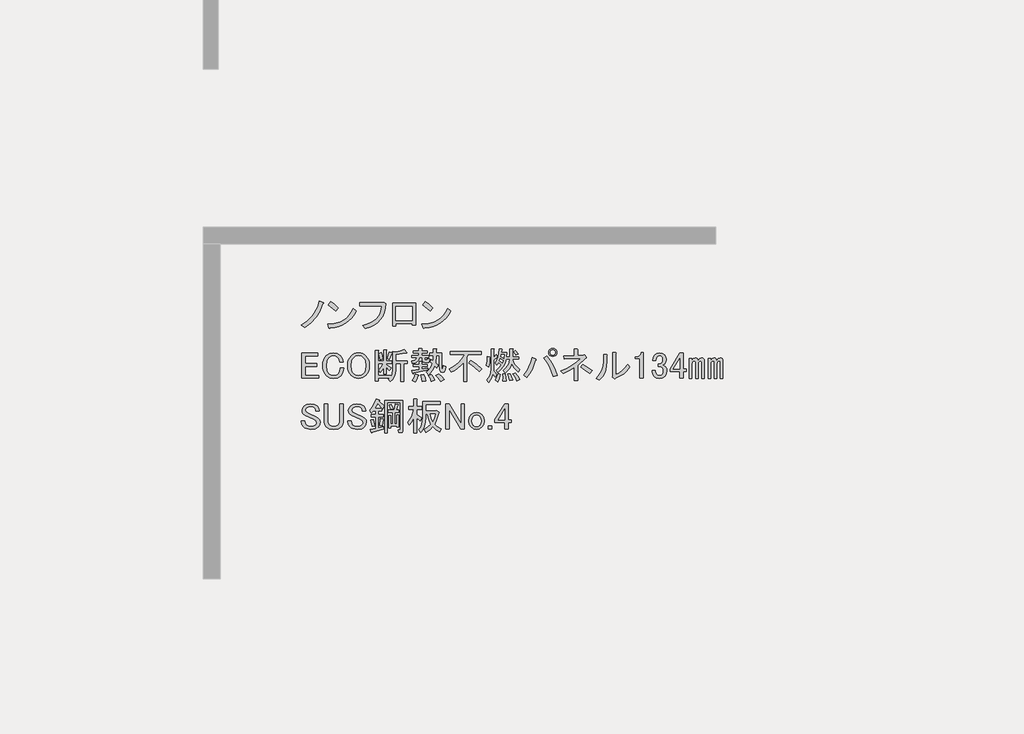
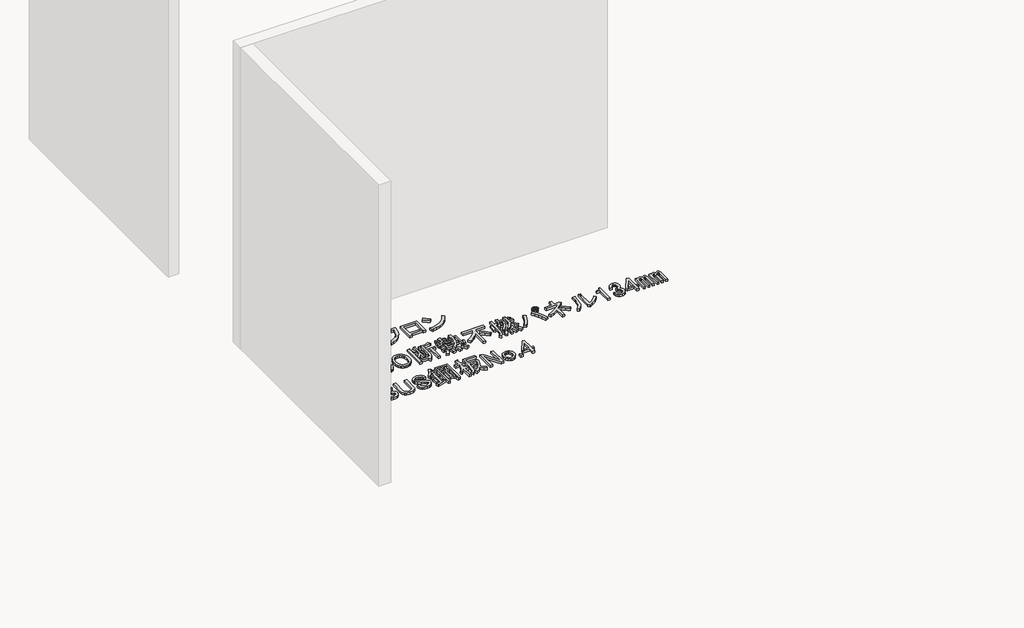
# One storey, part 60 of 117: 1 proxy.
"""IFC4 building model written with IfcOpenShell, lengths in millimetres."""

from ifc_helpers import new_model, si_unit, frame, origin, place, context, project, spatial, polyline, outline, extrude, element, save

model = new_model("IFC4")

# Units and contexts
model_context = context("Model", 3, world=origin())
ifc_project = project(units=[si_unit("LENGTHUNIT", "METRE", prefix="MILLI")], contexts=[model_context])

# Site, building, storey
site = spatial("IfcSite", under=ifc_project)
building = spatial("IfcBuilding", under=site)
storey = spatial("IfcBuildingStorey", under=building, Name="レベル 1", Elevation=500.0)

# Proxy
placement = place(None, origin())
element("IfcBuildingElementProxy", 1, Name="200㎜\u3000MS Pゴシック", ObjectType="200㎜\u3000MS Pゴシック", at=placement, inside=storey, context=model_context, shape_type="SweptSolid", body=[
    extrude(outline(polyline([(48940.1706985, -12603.5496882), (48914.5952502, -12663.3215225), (48886.146156, -12709.2998566), (48844.4782907, -12754.7034615), (48795.3389462, -12792.060858), (48767.7519457, -12770.2211493), (48815.4544673, -12739.7605029), (48855.1107805, -12701.2536481), (48872.4963381, -12677.3305462), (48887.8703435, -12649.2406577), (48901.2327969, -12616.9839827), (48912.5836981, -12580.5605212), (48943.6190736, -12594.3540214), (48946.7800841, -12598.9518548), (48940.1706985, -12603.5496882)])), frame((0.0, 0.0, 500.0), z_axis=(0.0, 0.0, 1.0), x_axis=(1.0, 0.0, 0.0)), (0.0, 0.0, 1.0), 25.0),
    extrude(outline(polyline([(49039.8977052, -12658.7236891), (48981.2753292, -12611.5958967), (49000.8161212, -12587.4572713), (49028.1157571, -12607.2854279), (49061.7374138, -12636.8839804), (49039.8977052, -12658.7236891)])), frame((0.0, 0.0, 500.0), z_axis=(0.0, 0.0, 1.0), x_axis=(1.0, 0.0, 0.0)), (0.0, 0.0, 1.0), 25.0),
    extrude(outline(polyline([(49201.9713328, -12658.7236891), (49185.447869, -12688.465924), (49166.3381239, -12714.4724192), (49144.6420975, -12736.7431748), (49120.3597898, -12755.2781907), (49093.4912008, -12770.077467), (49064.0363306, -12781.1410036), (49031.995179, -12788.4688006), (48997.3677461, -12792.060858), (48991.6204544, -12800.1070664), (48985.8731626, -12794.3597747), (48976.6774958, -12764.4738575), (49012.5082679, -12761.7977748), (49045.2857912, -12755.4937141), (49075.0100658, -12745.5616756), (49101.6810916, -12732.0016591), (49125.2988687, -12714.8136646), (49145.863397, -12693.9976923), (49163.3746766, -12669.553742), (49177.8327074, -12641.4818138), (49201.9713328, -12658.7236891)])), frame((0.0, 0.0, 500.0), z_axis=(0.0, 0.0, 1.0), x_axis=(1.0, 0.0, 0.0)), (0.0, 0.0, 1.0), 25.0),
    extrude(outline(polyline([(49252.7314136, -12773.6695243), (49286.514713, -12763.9889298), (49316.0234641, -12751.6142922), (49341.257667, -12736.5456116), (49362.2173217, -12718.782888), (49378.902428, -12698.3261214), (49391.3129862, -12675.1753118), (49399.4489961, -12649.3304591), (49403.3104577, -12620.7915635), (49230.8917049, -12620.7915635), (49230.8917049, -12595.5034798), (49405.6093744, -12595.5034798), (49421.7017914, -12592.0551047), (49434.3458332, -12603.5496882), (49430.825617, -12640.0449909), (49422.5638851, -12673.0919185), (49409.5606375, -12702.6904711), (49391.8158742, -12728.8406486), (49369.3295952, -12751.542451), (49342.1018005, -12770.7958784), (49310.1324901, -12786.6009308), (49273.421664, -12798.9576081), (49252.7314136, -12773.6695243)])), frame((0.0, 0.0, 500.0), z_axis=(0.0, 0.0, 1.0), x_axis=(1.0, 0.0, 0.0)), (0.0, 0.0, 1.0), 25.0),
    extrude(outline(polyline([(49667.455987, -12772.520066), (49641.0184449, -12772.520066), (49641.0184449, -12759.8760241), (49513.4285679, -12759.8760241), (49513.4285679, -12778.2673577), (49486.9910258, -12778.2673577), (49486.9910258, -12598.9518548), (49667.455987, -12598.9518548), (49667.455987, -12772.520066)]), holes=[polyline([(49513.4285679, -12624.2399386), (49513.4285679, -12734.5879404), (49641.0184449, -12734.5879404), (49641.0184449, -12624.2399386), (49513.4285679, -12624.2399386)])]), frame((0.0, 0.0, 500.0), z_axis=(0.0, 0.0, 1.0), x_axis=(1.0, 0.0, 0.0)), (0.0, 0.0, 1.0), 25.0),
    extrude(outline(polyline([(49943.5099049, -12658.7236891), (49926.9864411, -12688.465924), (49907.876696, -12714.4724192), (49886.1806696, -12736.7431748), (49861.8983619, -12755.2781907), (49835.0297729, -12770.077467), (49805.5749026, -12781.1410036), (49773.5337511, -12788.4688006), (49738.9063182, -12792.060858), (49733.1590264, -12800.1070664), (49727.4117347, -12794.3597747), (49718.2160679, -12764.4738575), (49754.0468399, -12761.7977748), (49786.8243633, -12755.4937141), (49816.5486378, -12745.5616756), (49843.2196637, -12732.0016591), (49866.8374407, -12714.8136646), (49887.4019691, -12693.9976923), (49904.9132486, -12669.553742), (49919.3712795, -12641.4818138), (49943.5099049, -12658.7236891)])), frame((0.0, 0.0, 500.0), z_axis=(0.0, 0.0, 1.0), x_axis=(1.0, 0.0, 0.0)), (0.0, 0.0, 1.0), 25.0),
    extrude(outline(polyline([(49781.4362772, -12658.7236891), (49722.8139013, -12611.5958967), (49742.3546933, -12587.4572713), (49769.6543291, -12607.2854279), (49803.2759859, -12636.8839804), (49781.4362772, -12658.7236891)])), frame((0.0, 0.0, 500.0), z_axis=(0.0, 0.0, 1.0), x_axis=(1.0, 0.0, 0.0)), (0.0, 0.0, 1.0), 25.0),
    extrude(outline(polyline([(48773.4992375, -12992.0551047), (48899.9396562, -12992.0551047), (48899.9396562, -13013.8948134), (48799.9367796, -13013.8948134), (48799.9367796, -13074.816106), (48893.0429061, -13074.816106), (48893.0429061, -13096.6558147), (48799.9367796, -13096.6558147), (48799.9367796, -13166.7727742), (48905.686948, -13166.7727742), (48905.686948, -13188.6124829), (48773.4992375, -13188.6124829), (48773.4992375, -12992.0551047)])), frame((0.0, 0.0, 500.0), z_axis=(0.0, 0.0, 1.0), x_axis=(1.0, 0.0, 0.0)), (0.0, 0.0, 1.0), 25.0),
    extrude(outline(polyline([(48937.7798252, -13090.908523), (48939.5758538, -13066.985421), (48944.9639399, -13045.7922827), (48953.9440832, -13027.3291079), (48966.516284, -13011.5958967), (48991.5170031, -12995.2161152), (49022.8397432, -12989.756188), (49053.5877541, -12994.641386), (49076.8642858, -13009.29698), (49092.6693381, -13032.8608762), (49098.7039944, -13062.1720642), (49071.116994, -13062.1720642), (49066.231796, -13040.9070847), (49056.1740354, -13025.3893969), (49040.9437123, -13015.0442717), (49022.8397432, -13011.5958967), (49003.2989512, -13015.6190009), (48986.0570759, -13027.6883136), (48977.0050914, -13039.3984206), (48970.5393882, -13053.8384911), (48965.3668256, -13090.908523), (48970.5393882, -13127.9785548), (48977.0050914, -13142.4186254), (48986.0570759, -13154.1287323), (49002.7242221, -13165.3359513), (49022.8397432, -13169.0716909), (49043.242629, -13165.9106804), (49058.4729521, -13156.427649), (49070.5422648, -13136.8868571), (49074.5653691, -13110.449315), (49102.1523695, -13110.449315), (49095.8303486, -13145.2204301), (49088.7899162, -13159.3731361), (49079.1632025, -13171.3706076), (49068.3151893, -13179.9197041), (49055.3119417, -13186.0262016), (49022.8397432, -13190.9113996), (48991.5170031, -13185.4514724), (48966.516284, -13169.0716909), (48953.9440832, -13153.4103209), (48944.9639399, -13135.1626695), (48939.5758538, -13114.3287369), (48937.7798252, -13090.908523)])), frame((0.0, 0.0, 500.0), z_axis=(0.0, 0.0, 1.0), x_axis=(1.0, 0.0, 0.0)), (0.0, 0.0, 1.0), 25.0),
    extrude(outline(polyline([(49133.1417667, -13089.7590646), (49134.8659542, -13066.9135799), (49140.0385168, -13046.6543764), (49148.6594544, -13028.9814543), (49160.7287671, -13013.8948134), (49173.4446501, -13003.3341648), (49187.4536738, -12995.7908443), (49202.7558381, -12991.2648521), (49219.3511431, -12989.756188), (49235.946448, -12991.2648521), (49251.2486123, -12995.7908443), (49265.257636, -13003.3341648), (49277.973519, -13013.8948134), (49290.0428317, -13028.9814543), (49298.6637694, -13046.6543764), (49303.836332, -13066.9135799), (49305.5605195, -13089.7590646), (49303.836332, -13112.6045494), (49298.6637694, -13132.8637528), (49290.0428317, -13150.536675), (49277.973519, -13165.6233159), (49265.257636, -13176.1839645), (49251.2486123, -13183.7272849), (49235.946448, -13188.2532772), (49219.3511431, -13189.7619413), (49202.7558381, -13188.2532772), (49187.4536738, -13183.7272849), (49173.4446501, -13176.1839645), (49160.7287671, -13165.6233159), (49148.6594544, -13150.536675), (49140.0385168, -13132.8637528), (49134.8659542, -13112.6045494), (49133.1417667, -13089.7590646)]), holes=[polyline([(49219.3511431, -13011.5958967), (49198.6608927, -13015.9063655), (49180.2695591, -13028.837772), (49171.7204626, -13039.9731498), (49165.6139651, -13053.8384911), (49160.7287671, -13089.7590646), (49165.6139651, -13125.6796381), (49171.7204626, -13139.5449795), (49180.2695591, -13150.6803573), (49198.6608927, -13163.6117637), (49219.3511431, -13167.9222326), (49240.0413934, -13163.6117637), (49258.432727, -13150.6803573), (49266.9818235, -13139.5449795), (49273.088321, -13125.6796381), (49277.973519, -13089.7590646), (49273.088321, -13053.8384911), (49266.9818235, -13039.9731498), (49258.432727, -13028.837772), (49240.0413934, -13015.9063655), (49219.3511431, -13011.5958967)])]), frame((0.0, 0.0, 500.0), z_axis=(0.0, 0.0, 1.0), x_axis=(1.0, 0.0, 0.0)), (0.0, 0.0, 1.0), 25.0),
    extrude(outline(polyline([(49444.3691101, -13035.7345221), (49461.6109854, -12982.8594379), (49482.3012357, -12988.6067296), (49484.0254232, -12991.7677401), (49480.002319, -12994.3540214), (49462.7604437, -13042.6312722), (49444.3691101, -13035.7345221)])), frame((0.0, 0.0, 500.0), z_axis=(0.0, 0.0, 1.0), x_axis=(1.0, 0.0, 0.0)), (0.0, 0.0, 1.0), 25.0),
    extrude(outline(polyline([(49598.3965292, -12987.4572713), (49596.6723417, -12992.0551047), (49589.2008624, -12989.756188), (49512.1871528, -13002.4002299), (49512.1871528, -13051.826939), (49604.143821, -13051.826939), (49604.143821, -13073.6666477), (49573.1084455, -13073.6666477), (49573.1084455, -13213.9005666), (49550.1192785, -13213.9005666), (49550.1192785, -13073.6666477), (49512.1871528, -13073.6666477), (49512.1871528, -13123.0933568), (49509.6008716, -13150.8958807), (49501.8420277, -13175.6810764), (49488.9106212, -13197.448944), (49470.8066522, -13216.1994833), (49453.5647769, -13196.6586914), (49463.9099021, -13187.4630245), (49374.2521506, -13187.4630245), (49374.2521506, -13209.3027332), (49351.2629836, -13209.3027332), (49351.2629836, -12970.215396), (49373.1026922, -12970.215396), (49377.9878902, -12972.5143127), (49374.2521506, -12977.1121461), (49374.2521506, -13052.9763974), (49416.7821096, -13052.9763974), (49416.7821096, -12965.6175626), (49435.1734433, -12965.6175626), (49440.0586413, -12967.9164793), (49436.3229016, -12972.5143127), (49436.3229016, -13052.9763974), (49480.002319, -13052.9763974), (49480.002319, -13071.367731), (49436.3229016, -13071.367731), (49436.3229016, -13080.5633978), (49476.5539439, -13107.0009399), (49462.7604437, -13128.8406486), (49436.3229016, -13102.4031065), (49436.3229016, -13155.2781907), (49416.7821096, -13155.2781907), (49416.7821096, -13107.0009399), (49403.5633386, -13126.8290965), (49389.1951092, -13142.6341488), (49376.5510673, -13124.2428152), (49398.390776, -13100.1041898), (49415.6326513, -13071.367731), (49374.2521506, -13071.367731), (49374.2521506, -13165.6233159), (49471.9561105, -13165.6233159), (49471.9561105, -13179.4168161), (49484.887517, -13155.2781907), (49489.1979858, -13121.9438985), (49489.1979858, -12977.1121461), (49511.0376945, -12982.8594379), (49547.2456326, -12975.3879586), (49577.7062789, -12962.1691875), (49598.3965292, -12987.4572713)])), frame((0.0, 0.0, 500.0), z_axis=(0.0, 0.0, 1.0), x_axis=(1.0, 0.0, 0.0)), (0.0, 0.0, 1.0), 25.0),
    extrude(outline(polyline([(49390.3445675, -13043.7807305), (49377.7005257, -12993.2045631), (49397.2413176, -12986.3078129), (49405.0001615, -13010.4464383), (49409.8853595, -13036.8839804), (49390.3445675, -13043.7807305)])), frame((0.0, 0.0, 500.0), z_axis=(0.0, 0.0, 1.0), x_axis=(1.0, 0.0, 0.0)), (0.0, 0.0, 1.0), 25.0),
    extrude(outline(polyline([(49734.0326148, -13159.8760241), (49744.0903754, -13187.17566), (49748.9755734, -13209.3027332), (49720.2391146, -13215.050025), (49717.6528333, -13193.4976809), (49709.8939894, -13163.3243992), (49734.0326148, -13159.8760241)])), frame((0.0, 0.0, 500.0), z_axis=(0.0, 0.0, 1.0), x_axis=(1.0, 0.0, 0.0)), (0.0, 0.0, 1.0), 25.0),
    extrude(outline(polyline([(49790.356074, -13212.7511083), (49782.022501, -13188.0377537), (49768.5163654, -13166.7727742), (49789.2066157, -13158.7265657), (49806.1611264, -13180.2789098), (49817.9430745, -13203.5554415), (49790.356074, -13212.7511083)])), frame((0.0, 0.0, 500.0), z_axis=(0.0, 0.0, 1.0), x_axis=(1.0, 0.0, 0.0)), (0.0, 0.0, 1.0), 25.0),
    extrude(outline(polyline([(49689.2037391, -13164.4738575), (49692.6521141, -13169.3590555), (49686.9048224, -13172.520066), (49677.1344264, -13198.0955143), (49666.214572, -13217.3489417), (49643.225405, -13205.8543582), (49655.8694469, -13182.290462), (49666.214572, -13155.2781907), (49689.2037391, -13164.4738575)])), frame((0.0, 0.0, 500.0), z_axis=(0.0, 0.0, 1.0), x_axis=(1.0, 0.0, 0.0)), (0.0, 0.0, 1.0), 25.0),
    extrude(outline(polyline([(49721.3885729, -13027.6883136), (49696.1004892, -13027.6883136), (49691.5026558, -13045.1457123), (49681.1575306, -13058.4363245), (49665.0651137, -13067.5601502), (49643.225405, -13072.5171893), (49638.6275716, -13052.9763974), (49663.9156553, -13044.3554597), (49671.3871346, -13037.0276627), (49675.4102388, -13027.6883136), (49639.7770299, -13027.6883136), (49639.7770299, -13009.29698), (49693.8015725, -13009.29698), (49693.8015725, -12992.0551047), (49650.1221551, -12992.0551047), (49650.1221551, -12973.6637711), (49693.8015725, -12973.6637711), (49693.8015725, -12955.2724374), (49715.6412812, -12955.2724374), (49720.5264792, -12957.5713541), (49716.7907395, -12962.1691875), (49716.7907395, -12973.6637711), (49759.3206985, -12973.6637711), (49759.3206985, -12992.0551047), (49716.7907395, -12992.0551047), (49716.7907395, -13009.29698), (49769.6658237, -13009.29698), (49769.6658237, -13027.6883136), (49740.9293649, -13027.6883136), (49740.9293649, -13040.3323555), (49742.3661878, -13045.5049181), (49746.6766567, -13047.2291056), (49757.0217818, -13047.2291056), (49760.7575215, -13044.0680951), (49760.4701569, -13034.5850637), (49780.0109489, -13036.8839804), (49777.137303, -13058.4363245), (49771.8210581, -13063.8244106), (49763.9185319, -13065.6204392), (49739.7799066, -13065.6204392), (49725.9864063, -13060.7352412), (49721.3885729, -13046.0796472), (49721.3885729, -13027.6883136)])), frame((0.0, 0.0, 500.0), z_axis=(0.0, 0.0, 1.0), x_axis=(1.0, 0.0, 0.0)), (0.0, 0.0, 1.0), 25.0),
    extrude(outline(polyline([(49852.4268251, -13010.4464383), (49830.5871164, -13010.4464383), (49825.989283, -13067.9193559), (49845.5300749, -13086.3106896), (49835.1849498, -13108.1503983), (49819.0925328, -13092.0579813), (49799.8391054, -13129.7027424), (49769.6658237, -13162.1749408), (49752.4239484, -13141.4846905), (49767.5105893, -13129.5590601), (49780.585678, -13114.4724192), (49791.6492147, -13096.2247679), (49800.7011992, -13074.816106), (49783.4593239, -13059.8731475), (49791.5055324, -13042.6312722), (49805.2990326, -13052.9763974), (49807.5979493, -13010.4464383), (49780.0109489, -13010.4464383), (49780.0109489, -12992.0551047), (49807.5979493, -12992.0551047), (49807.5979493, -12957.5713541), (49829.437658, -12957.5713541), (49834.322856, -12959.8702708), (49830.5871164, -12964.4681043), (49830.5871164, -12992.0551047), (49871.967617, -12992.0551047), (49871.967617, -13088.6096063), (49875.4159921, -13112.7482317), (49878.6488437, -13114.7597838), (49881.4506484, -13111.5987733), (49885.7611173, -13089.7590646), (49905.3019092, -13096.6558147), (49900.775917, -13123.4525626), (49892.945232, -13139.4731384), (49881.8098542, -13144.7175421), (49867.3697836, -13139.1857738), (49860.8322393, -13131.8579768), (49856.1625647, -13120.219711), (49852.4268251, -13084.0117729), (49852.4268251, -13010.4464383)])), frame((0.0, 0.0, 500.0), z_axis=(0.0, 0.0, 1.0), x_axis=(1.0, 0.0, 0.0)), (0.0, 0.0, 1.0), 25.0),
    extrude(outline(polyline([(49651.2716134, -13149.5308989), (49649.2600613, -13154.4160969), (49645.5243217, -13152.979274), (49639.7770299, -13128.8406486), (49694.9510308, -13120.7944401), (49694.9510308, -13097.8052731), (49651.2716134, -13097.8052731), (49651.2716134, -13079.4139395), (49694.9510308, -13079.4139395), (49694.9510308, -13056.4247724), (49713.3423645, -13056.4247724), (49718.2275625, -13058.7236891), (49714.4918228, -13063.3215225), (49714.4918228, -13079.4139395), (49759.3206985, -13079.4139395), (49759.3206985, -13097.8052731), (49714.4918228, -13097.8052731), (49714.4918228, -13117.3460651), (49765.0679903, -13108.1503983), (49765.0679903, -13124.2428152), (49651.2716134, -13149.5308989)])), frame((0.0, 0.0, 500.0), z_axis=(0.0, 0.0, 1.0), x_axis=(1.0, 0.0, 0.0)), (0.0, 0.0, 1.0), 25.0),
    extrude(outline(polyline([(49848.97845, -13154.1287323), (49873.6918046, -13175.3937119), (49892.6578674, -13200.1070664), (49866.2203253, -13215.050025), (49846.9668979, -13185.4514724), (49828.2881997, -13165.6233159), (49848.97845, -13154.1287323)])), frame((0.0, 0.0, 500.0), z_axis=(0.0, 0.0, 1.0), x_axis=(1.0, 0.0, 0.0)), (0.0, 0.0, 1.0), 25.0),
    extrude(outline(polyline([(50167.3784135, -13138.0363154), (50128.2968295, -13099.8168252), (50086.9163289, -13070.2182726), (50103.0087458, -13049.5280223), (50146.6881632, -13077.6897519), (50188.0686638, -13116.1966067), (50167.3784135, -13138.0363154)])), frame((0.0, 0.0, 500.0), z_axis=(0.0, 0.0, 1.0), x_axis=(1.0, 0.0, 0.0)), (0.0, 0.0, 1.0), 25.0),
    extrude(outline(polyline([(49940.9351182, -12977.1121461), (50182.3213721, -12977.1121461), (50182.3213721, -13002.4002299), (50082.3184955, -13002.4002299), (50071.9733703, -13026.5388553), (50071.9733703, -13212.7511083), (50045.5358282, -13212.7511083), (50045.5358282, -13065.6204392), (50024.7018956, -13088.8969709), (50001.2816816, -13109.2998566), (49975.2751864, -13126.8290965), (49946.6824099, -13141.4846905), (49930.589993, -13115.0471484), (49970.174465, -13094.6442626), (50003.8679629, -13069.0688143), (50031.6704868, -13038.3208034), (50053.5820367, -13002.4002299), (49940.9351182, -13002.4002299), (49940.9351182, -12977.1121461)])), frame((0.0, 0.0, 500.0), z_axis=(0.0, 0.0, 1.0), x_axis=(1.0, 0.0, 0.0)), (0.0, 0.0, 1.0), 25.0),
    extrude(outline(polyline([(50354.7401249, -13211.6016499), (50355.3148541, -13184.5893787), (50352.4412082, -13156.427649), (50371.9820002, -13155.2781907), (50378.3040211, -13181.4283682), (50378.8787503, -13209.3027332), (50354.7401249, -13211.6016499)])), frame((0.0, 0.0, 500.0), z_axis=(0.0, 0.0, 1.0), x_axis=(1.0, 0.0, 0.0)), (0.0, 0.0, 1.0), 25.0),
    extrude(outline(polyline([(50335.1993329, -13159.8760241), (50326.5783953, -13190.3366704), (50312.2101659, -13217.3489417), (50292.6693739, -13204.7048998), (50306.7502387, -13179.9915453), (50316.8079993, -13151.8298156), (50335.1993329, -13159.8760241)])), frame((0.0, 0.0, 500.0), z_axis=(0.0, 0.0, 1.0), x_axis=(1.0, 0.0, 0.0)), (0.0, 0.0, 1.0), 25.0),
    extrude(outline(polyline([(50250.1394149, -13021.9410219), (50254.7372483, -13024.2399386), (50250.1394149, -13028.837772), (50248.9899565, -13068.4940851), (50243.2426647, -13102.4031065), (50224.8513311, -13089.7590646), (50230.5986229, -13055.2753141), (50231.7480812, -13018.4926468), (50250.1394149, -13021.9410219)])), frame((0.0, 0.0, 500.0), z_axis=(0.0, 0.0, 1.0), x_axis=(1.0, 0.0, 0.0)), (0.0, 0.0, 1.0), 25.0),
    extrude(outline(polyline([(50301.8650407, -13003.5496882), (50311.0607075, -13020.7915635), (50312.4975305, -13026.8262199), (50307.6123325, -13026.5388553), (50281.1747904, -13047.2291056), (50281.1747904, -13131.1395653), (50294.9682906, -13143.4962426), (50306.4628741, -13159.8760241), (50293.8188322, -13180.5662744), (50275.4274986, -13155.2781907), (50263.6455505, -13191.1987642), (50242.0932064, -13220.7973168), (50227.1502478, -13202.4059831), (50242.2368887, -13183.6554438), (50253.0130607, -13163.0370346), (50259.478764, -13140.5507556), (50261.6339984, -13116.1966067), (50261.6339984, -12958.7208125), (50280.025332, -12958.7208125), (50284.91053, -12961.0197292), (50281.1747904, -12965.6175626), (50281.1747904, -13024.2399386), (50301.8650407, -13003.5496882)])), frame((0.0, 0.0, 500.0), z_axis=(0.0, 0.0, 1.0), x_axis=(1.0, 0.0, 0.0)), (0.0, 0.0, 1.0), 25.0),
    extrude(outline(polyline([(50452.4440848, -12972.5143127), (50474.2837935, -12996.6529381), (50457.0419182, -13008.1475216), (50450.4325327, -12996.6529381), (50437.5011262, -12982.8594379), (50452.4440848, -12972.5143127)])), frame((0.0, 0.0, 500.0), z_axis=(0.0, 0.0, 1.0), x_axis=(1.0, 0.0, 0.0)), (0.0, 0.0, 1.0), 25.0),
    extrude(outline(polyline([(50462.78921, -13209.3027332), (50449.5704389, -13181.1410036), (50432.9032928, -13156.427649), (50451.2946265, -13148.3814406), (50470.2606893, -13171.3706076), (50485.778377, -13198.9576081), (50462.78921, -13209.3027332)])), frame((0.0, 0.0, 500.0), z_axis=(0.0, 0.0, 1.0), x_axis=(1.0, 0.0, 0.0)), (0.0, 0.0, 1.0), 25.0),
    extrude(outline(polyline([(50413.3625008, -13154.1287323), (50431.7538345, -13203.5554415), (50407.6152091, -13208.1532749), (50393.8217089, -13157.5771074), (50413.3625008, -13154.1287323)])), frame((0.0, 0.0, 500.0), z_axis=(0.0, 0.0, 1.0), x_axis=(1.0, 0.0, 0.0)), (0.0, 0.0, 1.0), 25.0),
    extrude(outline(polyline([(50474.2837935, -13139.1857738), (50443.5357826, -13108.7251274), (50422.5581677, -13074.816106), (50414.1527535, -13096.9431793), (50402.7300111, -13116.1966067), (50388.2899405, -13132.5763882), (50370.8325418, -13146.0825239), (50357.0390416, -13127.6911902), (50377.8729742, -13108.7969686), (50393.2469797, -13087.7475125), (50403.161058, -13064.542822), (50407.6152091, -13039.1828971), (50378.8787503, -13039.1828971), (50370.904383, -13069.7872258), (50357.3264062, -13097.2305439), (50338.1448199, -13121.5128516), (50313.3596242, -13142.6341488), (50300.7155823, -13126.5417319), (50326.5783953, -13104.9893878), (50342.096083, -13084.0117729), (50320.2563743, -13064.4709809), (50306.4628741, -13085.1612312), (50292.6693739, -13070.2182726), (50305.0978923, -13051.1803687), (50314.7964472, -13026.2514907), (50321.7650384, -12995.4316386), (50326.0036661, -12958.7208125), (50346.6939164, -12961.0197292), (50350.1422915, -12963.6060105), (50344.3949997, -12966.767021), (50342.096083, -12985.1583546), (50385.7755004, -12985.1583546), (50382.3271253, -13020.7915635), (50407.6152091, -13020.7915635), (50407.6152091, -12958.7208125), (50429.4549178, -12958.7208125), (50434.3401158, -12961.0197292), (50430.6043761, -12965.6175626), (50430.6043761, -13020.7915635), (50480.0310853, -13020.7915635), (50480.0310853, -13039.1828971), (50430.6043761, -13039.1828971), (50437.1419205, -13060.9507647), (50448.7083452, -13081.4254916), (50465.3036501, -13100.6070778), (50486.9278354, -13118.4955234), (50474.2837935, -13139.1857738)]), holes=[polyline([(50350.1422915, -13069.0688143), (50357.0390416, -13049.5280223), (50331.7509579, -13033.4356054), (50326.0036661, -13050.6774807), (50350.1422915, -13069.0688143)]), polyline([(50339.7971663, -13003.5496882), (50336.3487913, -13019.6421052), (50361.636875, -13033.4356054), (50366.2347084, -13003.5496882), (50339.7971663, -13003.5496882)])]), frame((0.0, 0.0, 500.0), z_axis=(0.0, 0.0, 1.0), x_axis=(1.0, 0.0, 0.0)), (0.0, 0.0, 1.0), 25.0),
    extrude(outline(polyline([(50699.5776305, -13012.745355), (50726.230696, -13049.4561812), (50748.7169751, -13087.1727833), (50767.0364675, -13125.8951616), (50781.1891735, -13165.6233159), (50750.153798, -13175.968441), (50734.7079514, -13132.8637528), (50717.1068704, -13094.356898), (50697.3505549, -13060.4478766), (50675.4390051, -13031.1366887), (50699.5776305, -13012.745355)])), frame((0.0, 0.0, 500.0), z_axis=(0.0, 0.0, 1.0), x_axis=(1.0, 0.0, 0.0)), (0.0, 0.0, 1.0), 25.0),
    extrude(outline(polyline([(50612.2187958, -13039.1828971), (50616.2419, -13044.6428243), (50609.919879, -13049.5280223), (50597.9942486, -13084.9457078), (50582.9076078, -13118.782888), (50564.6599564, -13151.039563), (50543.2512946, -13181.7157328), (50516.8137525, -13164.4738575), (50540.018443, -13133.0074351), (50559.056347, -13099.5294606), (50573.9274644, -13064.039934), (50584.6317953, -13026.5388553), (50612.2187958, -13039.1828971)])), frame((0.0, 0.0, 500.0), z_axis=(0.0, 0.0, 1.0), x_axis=(1.0, 0.0, 0.0)), (0.0, 0.0, 1.0), 25.0),
    extrude(outline(polyline([(50745.5559646, -13018.4926468), (50732.9119227, -13016.1937301), (50722.5667975, -13009.29698), (50715.6700474, -12998.9518548), (50713.3711307, -12986.3078129), (50715.6700474, -12973.6637711), (50722.5667975, -12963.3186459), (50732.9119227, -12956.4218958), (50745.5559646, -12954.1229791), (50758.2000065, -12956.4218958), (50768.5451316, -12963.3186459), (50775.4418817, -12973.6637711), (50777.7407984, -12986.3078129), (50775.4418817, -12998.9518548), (50768.5451316, -13009.29698), (50758.2000065, -13016.1937301), (50745.5559646, -13018.4926468)]), holes=[polyline([(50745.5559646, -13006.9980633), (50753.8895376, -13005.5612403), (50760.4989232, -13001.2507715), (50764.809392, -12994.641386), (50766.2462149, -12986.3078129), (50764.809392, -12977.9742399), (50760.4989232, -12971.3648544), (50753.8895376, -12967.0543855), (50745.5559646, -12965.6175626), (50737.2223915, -12967.0543855), (50730.613006, -12971.3648544), (50726.3025372, -12977.9742399), (50724.8657143, -12986.3078129), (50726.3025372, -12994.641386), (50730.613006, -13001.2507715), (50737.2223915, -13005.5612403), (50745.5559646, -13006.9980633)])]), frame((0.0, 0.0, 500.0), z_axis=(0.0, 0.0, 1.0), x_axis=(1.0, 0.0, 0.0)), (0.0, 0.0, 1.0), 25.0),
    extrude(outline(polyline([(50989.2411352, -13008.1475216), (50996.1378853, -13005.8486049), (51008.7819272, -13023.0904802), (51009.9313856, -13029.1251366), (51004.1840938, -13031.1366887), (50940.9638844, -13087.4601479), (50940.9638844, -13208.1532749), (50914.5263423, -13208.1532749), (50914.5263423, -13105.8514816), (50874.2953, -13129.9901069), (50829.4664243, -13151.8298156), (50809.9256323, -13131.1395653), (50855.4729195, -13111.6706145), (50896.7097379, -13088.8969709), (50933.6360874, -13062.8186345), (50966.2519682, -13033.4356054), (50836.3631744, -13039.1828971), (50832.9147993, -13013.8948134), (50914.5263423, -13011.5958967), (50914.5263423, -12959.8702708), (50937.5155094, -12959.8702708), (50943.5501657, -12963.3186459), (50940.9638844, -12969.0659377), (50940.9638844, -13010.4464383), (50989.2411352, -13008.1475216)])), frame((0.0, 0.0, 500.0), z_axis=(0.0, 0.0, 1.0), x_axis=(1.0, 0.0, 0.0)), (0.0, 0.0, 1.0), 25.0),
    extrude(outline(polyline([(51035.2194693, -13151.8298156), (50998.1494375, -13122.5186277), (50965.1025098, -13101.2536481), (50982.3443851, -13079.4139395), (51021.1386045, -13102.6904711), (51054.7602613, -13128.8406486), (51035.2194693, -13151.8298156)])), frame((0.0, 0.0, 500.0), z_axis=(0.0, 0.0, 1.0), x_axis=(1.0, 0.0, 0.0)), (0.0, 0.0, 1.0), 25.0),
    extrude(outline(polyline([(51242.2139293, -13158.7265657), (51266.9991251, -13146.5135708), (51290.7785447, -13129.4153778), (51313.5521883, -13107.4319868), (51335.3200559, -13080.5633978), (51351.4124728, -13102.4031065), (51328.1359412, -13130.2056304), (51301.9857636, -13153.8413678), (51272.9619403, -13173.3103186), (51241.064471, -13188.6124829), (51231.8688042, -13193.2103163), (51213.4774705, -13179.4168161), (51215.7763872, -13173.6695243), (51215.7763872, -12988.6067296), (51239.9150126, -12988.6067296), (51245.6623044, -12992.0551047), (51242.2139293, -12997.8023965), (51242.2139293, -13158.7265657)])), frame((0.0, 0.0, 500.0), z_axis=(0.0, 0.0, 1.0), x_axis=(1.0, 0.0, 0.0)), (0.0, 0.0, 1.0), 25.0),
    extrude(outline(polyline([(51088.1865102, -13189.7619413), (51113.3309116, -13160.5225944), (51131.2911984, -13127.9785548), (51142.0673704, -13092.1298225), (51145.6594278, -13052.9763974), (51145.6594278, -13001.2507715), (51169.7980532, -13001.2507715), (51175.5453449, -13004.6991466), (51172.0969699, -13010.4464383), (51172.0969699, -13051.826939), (51168.2893891, -13097.5897496), (51156.8666467, -13138.32368), (51137.8287427, -13174.0287301), (51111.1756772, -13204.7048998), (51088.1865102, -13189.7619413)])), frame((0.0, 0.0, 500.0), z_axis=(0.0, 0.0, 1.0), x_axis=(1.0, 0.0, 0.0)), (0.0, 0.0, 1.0), 25.0),
    extrude(outline(polyline([(51430.7250991, -13011.5958967), (51438.7713075, -13000.6760423), (51442.2196826, -12988.6067296), (51456.0131828, -12988.6067296), (51456.0131828, -13187.4630245), (51429.5756407, -13187.4630245), (51429.5756407, -13034.5850637), (51395.0918902, -13034.5850637), (51395.0918902, -13020.7915635), (51405.4370153, -13020.7915635), (51419.8052447, -13018.4926468), (51430.7250991, -13011.5958967)])), frame((0.0, 0.0, 500.0), z_axis=(0.0, 0.0, 1.0), x_axis=(1.0, 0.0, 0.0)), (0.0, 0.0, 1.0), 25.0),
    extrude(outline(polyline([(51530.7279757, -13048.378564), (51535.0384445, -13024.2399386), (51547.969851, -13004.6991466), (51564.6369971, -12993.4919276), (51584.7525182, -12989.756188), (51607.4543207, -12993.4919276), (51624.9835606, -13004.6991466), (51635.3286857, -13020.7915635), (51638.7770608, -13041.4818138), (51635.9034149, -13061.597335), (51627.2824773, -13075.9655644), (51618.9489042, -13082.2875853), (51610.040602, -13085.1612312), (51629.581394, -13096.6558147), (51639.9265191, -13112.7482317), (51643.3748942, -13133.438482), (51639.35179, -13156.427649), (51627.2824773, -13174.8189827), (51608.0290499, -13186.8882954), (51582.4536015, -13190.9113996), (51560.3265283, -13186.8882954), (51542.2225592, -13174.8189827), (51530.1532465, -13157.2897428), (51526.1301423, -13136.8868571), (51526.1301423, -13127.6911902), (51552.5676844, -13127.6911902), (51552.5676844, -13135.7373987), (51555.1539657, -13149.5308989), (51562.9128096, -13161.0254825), (51571.8211118, -13167.0601388), (51582.4536015, -13169.0716909), (51595.9597372, -13166.7727742), (51606.5922269, -13159.8760241), (51613.488977, -13148.094076), (51615.7878938, -13131.1395653), (51613.488977, -13116.7713359), (51606.5922269, -13105.8514816), (51596.8218309, -13098.9547314), (51585.9019766, -13096.6558147), (51576.7063098, -13096.6558147), (51576.7063098, -13077.1150228), (51583.6030599, -13077.1150228), (51593.6608205, -13074.816106), (51603.1438519, -13067.9193559), (51610.040602, -13056.712137), (51612.3395187, -13041.4818138), (51610.040602, -13027.9756782), (51603.1438519, -13017.3431884), (51595.0976434, -13012.1706259), (51584.7525182, -13010.4464383), (51574.9821223, -13012.4579905), (51566.3611846, -13018.4926468), (51559.1770699, -13030.5619595), (51556.0160594, -13048.378564), (51530.7279757, -13048.378564)])), frame((0.0, 0.0, 500.0), z_axis=(0.0, 0.0, 1.0), x_axis=(1.0, 0.0, 0.0)), (0.0, 0.0, 1.0), 25.0),
    extrude(outline(polyline([(51745.6766875, -12989.756188), (51772.1142296, -12989.756188), (51772.1142296, -13116.1966067), (51796.252855, -13116.1966067), (51796.252855, -13138.0363154), (51772.1142296, -13138.0363154), (51772.1142296, -13188.6124829), (51745.6766875, -13188.6124829), (51745.6766875, -13138.0363154), (51668.6629779, -13138.0363154), (51668.6629779, -13115.0471484), (51745.6766875, -12989.756188)]), holes=[polyline([(51745.6766875, -13032.286147), (51693.9510617, -13116.1966067), (51745.6766875, -13116.1966067), (51745.6766875, -13032.286147)])]), frame((0.0, 0.0, 500.0), z_axis=(0.0, 0.0, 1.0), x_axis=(1.0, 0.0, 0.0)), (0.0, 0.0, 1.0), 25.0),
    extrude(outline(polyline([(51839.9322724, -13189.7619413), (51820.3914804, -13189.7619413), (51820.3914804, -13032.286147), (51839.9322724, -13032.286147), (51839.9322724, -13049.5280223), (51852.0015851, -13034.0103346), (51865.2203561, -13028.837772), (51874.416023, -13030.2745949), (51881.3127731, -13034.5850637), (51888.2095232, -13048.378564), (51901.1409296, -13033.72297), (51914.6470653, -13028.837772), (51922.9806383, -13030.2745949), (51929.5900239, -13034.5850637), (51934.7625864, -13043.2060014), (51936.486774, -13055.2753141), (51936.486774, -13189.7619413), (51916.945982, -13189.7619413), (51916.945982, -13065.6204392), (51914.3597007, -13056.1374078), (51906.6008568, -13052.9763974), (51896.2557317, -13057.5742308), (51890.2210753, -13066.1951684), (51888.2095232, -13075.9655644), (51888.2095232, -13189.7619413), (51868.6687312, -13189.7619413), (51868.6687312, -13065.6204392), (51866.0824499, -13056.1374078), (51858.323606, -13052.9763974), (51847.9784809, -13057.5742308), (51841.9438245, -13066.1951684), (51839.9322724, -13075.9655644), (51839.9322724, -13189.7619413)])), frame((0.0, 0.0, 500.0), z_axis=(0.0, 0.0, 1.0), x_axis=(1.0, 0.0, 0.0)), (0.0, 0.0, 1.0), 25.0),
    extrude(outline(polyline([(52061.7777343, -13028.837772), (52070.1113074, -13030.2745949), (52076.7206929, -13034.5850637), (52081.8932555, -13043.2060014), (52083.617443, -13055.2753141), (52083.617443, -13189.7619413), (52064.0766511, -13189.7619413), (52064.0766511, -13065.6204392), (52061.4903698, -13056.1374078), (52053.7315259, -13052.9763974), (52043.3864007, -13057.5742308), (52037.3517444, -13066.1951684), (52035.3401922, -13075.9655644), (52035.3401922, -13189.7619413), (52015.7994003, -13189.7619413), (52015.7994003, -13065.6204392), (52013.213119, -13056.1374078), (52005.4542751, -13052.9763974), (51995.1091499, -13057.5742308), (51989.0744936, -13066.1951684), (51987.0629415, -13075.9655644), (51987.0629415, -13189.7619413), (51967.5221495, -13189.7619413), (51967.5221495, -13032.286147), (51987.0629415, -13032.286147), (51987.0629415, -13049.5280223), (51999.1322542, -13034.0103346), (52012.3510252, -13028.837772), (52021.546692, -13030.2745949), (52028.4434421, -13034.5850637), (52035.3401922, -13048.378564), (52048.2715987, -13033.72297), (52061.7777343, -13028.837772)])), frame((0.0, 0.0, 500.0), z_axis=(0.0, 0.0, 1.0), x_axis=(1.0, 0.0, 0.0)), (0.0, 0.0, 1.0), 25.0),
    extrude(outline(polyline([(48775.7981542, -13443.7807305), (48779.8212584, -13423.3778448), (48791.8905711, -13405.8486049), (48812.2934569, -13393.7792922), (48841.3172803, -13389.756188), (48872.6400204, -13394.3540214), (48895.3418228, -13408.1475216), (48907.4111355, -13425.6767615), (48911.4342397, -13446.0796472), (48884.9966976, -13446.0796472), (48882.6977809, -13433.4356054), (48875.8010308, -13423.0904802), (48862.5822598, -13415.3316363), (48843.616197, -13412.745355), (48823.2133112, -13415.0442717), (48810.2819048, -13421.9410219), (48804.2472484, -13430.5619595), (48802.2356963, -13440.3323555), (48806.8335297, -13455.2753141), (48827.52378, -13466.7698976), (48887.2956143, -13493.2074397), (48904.5374896, -13504.7020232), (48914.020521, -13518.4955234), (48917.1815315, -13534.5879404), (48913.1584273, -13555.8529199), (48901.0891146, -13573.6695243), (48891.1031951, -13581.2128448), (48878.3873121, -13586.6009308), (48844.7656553, -13590.9113996), (48811.1439985, -13585.738837), (48797.5660217, -13579.2731338), (48786.1432794, -13570.2211493), (48774.9360604, -13551.8298156), (48771.2003208, -13526.5417319), (48797.6378629, -13526.5417319), (48799.9367796, -13544.3583363), (48806.8335297, -13556.427649), (48822.9259466, -13565.9106804), (48845.9151137, -13569.0716909), (48866.8927286, -13566.198045), (48881.5483226, -13557.5771074), (48888.4450727, -13548.3814406), (48890.7439894, -13539.1857738), (48889.0198019, -13529.7027424), (48883.8472393, -13521.9438985), (48865.4559057, -13510.449315), (48835.5699885, -13496.6558147), (48802.2356963, -13481.7128562), (48786.1432794, -13471.367731), (48778.3844355, -13459.2984183), (48775.7981542, -13443.7807305)])), frame((0.0, 0.0, 500.0), z_axis=(0.0, 0.0, 1.0), x_axis=(1.0, 0.0, 0.0)), (0.0, 0.0, 1.0), 25.0),
    extrude(outline(polyline([(48951.2054987, -13392.0551047), (48977.6430408, -13392.0551047), (48977.6430408, -13529.9901069), (48980.2293221, -13544.6457009), (48987.988166, -13556.427649), (49003.5058537, -13565.9106804), (49024.7708332, -13569.0716909), (49046.0358128, -13565.9106804), (49061.5535005, -13556.427649), (49069.3123444, -13544.6457009), (49071.8986257, -13529.9901069), (49071.8986257, -13392.0551047), (49098.3361678, -13392.0551047), (49098.3361678, -13531.1395653), (49094.3130635, -13554.1287323), (49082.2437508, -13572.520066), (49071.7549434, -13580.5662744), (49058.6798546, -13586.3135662), (49024.7708332, -13590.9113996), (48990.8618119, -13586.3135662), (48977.7867231, -13580.5662744), (48967.2979156, -13572.520066), (48955.2286029, -13554.1287323), (48951.2054987, -13531.1395653), (48951.2054987, -13392.0551047)])), frame((0.0, 0.0, 500.0), z_axis=(0.0, 0.0, 1.0), x_axis=(1.0, 0.0, 0.0)), (0.0, 0.0, 1.0), 25.0),
    extrude(outline(polyline([(49140.6822135, -13443.7807305), (49144.7053177, -13423.3778448), (49156.7746304, -13405.8486049), (49177.1775161, -13393.7792922), (49206.2013395, -13389.756188), (49237.5240796, -13394.3540214), (49260.2258821, -13408.1475216), (49272.2951948, -13425.6767615), (49276.318299, -13446.0796472), (49249.8807569, -13446.0796472), (49247.5818402, -13433.4356054), (49240.6850901, -13423.0904802), (49227.466319, -13415.3316363), (49208.5002562, -13412.745355), (49188.0973705, -13415.0442717), (49175.165964, -13421.9410219), (49169.1313077, -13430.5619595), (49167.1197556, -13440.3323555), (49171.717589, -13455.2753141), (49192.4078393, -13466.7698976), (49252.1796736, -13493.2074397), (49269.4215489, -13504.7020232), (49278.9045803, -13518.4955234), (49282.0655908, -13534.5879404), (49278.0424865, -13555.8529199), (49265.9731738, -13573.6695243), (49255.9872544, -13581.2128448), (49243.2713714, -13586.6009308), (49209.6497146, -13590.9113996), (49176.0280578, -13585.738837), (49162.450081, -13579.2731338), (49151.0273386, -13570.2211493), (49139.8201197, -13551.8298156), (49136.0843801, -13526.5417319), (49162.5219222, -13526.5417319), (49164.8208389, -13544.3583363), (49171.717589, -13556.427649), (49187.8100059, -13565.9106804), (49210.7991729, -13569.0716909), (49231.7767879, -13566.198045), (49246.4323819, -13557.5771074), (49253.329132, -13548.3814406), (49255.6280487, -13539.1857738), (49253.9038611, -13529.7027424), (49248.7312986, -13521.9438985), (49230.3399649, -13510.449315), (49200.4540478, -13496.6558147), (49167.1197556, -13481.7128562), (49151.0273386, -13471.367731), (49143.2684948, -13459.2984183), (49140.6822135, -13443.7807305)])), frame((0.0, 0.0, 500.0), z_axis=(0.0, 0.0, 1.0), x_axis=(1.0, 0.0, 0.0)), (0.0, 0.0, 1.0), 25.0),
    extrude(outline(polyline([(49478.1631856, -13394.3540214), (49485.3473003, -13409.5843446), (49490.8072275, -13429.9872303), (49473.5653522, -13435.7345221), (49462.0707687, -13398.9518548), (49478.1631856, -13394.3540214)])), frame((0.0, 0.0, 500.0), z_axis=(0.0, 0.0, 1.0), x_axis=(1.0, 0.0, 0.0)), (0.0, 0.0, 1.0), 25.0),
    extrude(outline(polyline([(49531.0382698, -13395.5034798), (49533.6245511, -13398.9518548), (49527.5898948, -13402.4002299), (49514.9458529, -13440.3323555), (49535.6361032, -13440.3323555), (49535.6361032, -13458.7236891), (49504.6007277, -13458.7236891), (49504.6007277, -13547.2319822), (49519.5436863, -13547.2319822), (49519.5436863, -13479.4139395), (49535.6361032, -13479.4139395), (49535.6361032, -13573.6695243), (49519.5436863, -13573.6695243), (49519.5436863, -13565.6233159), (49473.5653522, -13565.6233159), (49473.5653522, -13578.2673577), (49457.4729353, -13578.2673577), (49457.4729353, -13481.7128562), (49473.5653522, -13481.7128562), (49473.5653522, -13547.2319822), (49488.5083108, -13547.2319822), (49488.5083108, -13458.7236891), (49452.8751019, -13458.7236891), (49452.8751019, -13440.3323555), (49498.853436, -13440.3323555), (49509.1985611, -13390.9056463), (49531.0382698, -13395.5034798)])), frame((0.0, 0.0, 500.0), z_axis=(0.0, 0.0, 1.0), x_axis=(1.0, 0.0, 0.0)), (0.0, 0.0, 1.0), 25.0),
    extrude(outline(polyline([(49425.2881014, -13362.1691875), (49565.5220204, -13362.1691875), (49565.5220204, -13602.4059831), (49561.7862807, -13613.6132021), (49550.5790618, -13617.3489417), (49534.4866449, -13617.3489417), (49529.8888115, -13595.509233), (49541.383395, -13595.509233), (49544.83177, -13594.3597747), (49545.9812284, -13590.9113996), (49545.9812284, -13380.5605212), (49444.8288934, -13380.5605212), (49444.8288934, -13619.6478584), (49425.2881014, -13619.6478584), (49425.2881014, -13362.1691875)])), frame((0.0, 0.0, 500.0), z_axis=(0.0, 0.0, 1.0), x_axis=(1.0, 0.0, 0.0)), (0.0, 0.0, 1.0), 25.0),
    extrude(outline(polyline([(49413.7935179, -13510.449315), (49416.3797992, -13513.6103254), (49412.6440596, -13516.1966067), (49404.5978511, -13563.3243992), (49386.2065175, -13561.0254825), (49391.9538092, -13507.0009399), (49413.7935179, -13510.449315)])), frame((0.0, 0.0, 500.0), z_axis=(0.0, 0.0, 1.0), x_axis=(1.0, 0.0, 0.0)), (0.0, 0.0, 1.0), 25.0),
    extrude(outline(polyline([(49336.7798083, -13511.5987733), (49348.2743918, -13563.3243992), (49327.5841415, -13569.0716909), (49316.089558, -13517.3460651), (49336.7798083, -13511.5987733)])), frame((0.0, 0.0, 500.0), z_axis=(0.0, 0.0, 1.0), x_axis=(1.0, 0.0, 0.0)), (0.0, 0.0, 1.0), 25.0),
    extrude(outline(polyline([(49410.3451429, -13431.1366887), (49368.9646422, -13387.4572713), (49347.1249335, -13426.5388553), (49402.2989344, -13426.5388553), (49402.2989344, -13444.9301889), (49375.8613923, -13444.9301889), (49375.8613923, -13473.6666477), (49413.7935179, -13473.6666477), (49413.7935179, -13492.0579813), (49375.8613923, -13492.0579813), (49375.8613923, -13579.4168161), (49414.9429763, -13569.0716909), (49417.241893, -13588.6124829), (49325.2852248, -13613.9005666), (49322.9863081, -13619.6478584), (49318.3884747, -13616.1994833), (49311.4917246, -13593.2103163), (49356.3206003, -13584.0146495), (49356.3206003, -13492.0579813), (49318.3884747, -13492.0579813), (49318.3884747, -13473.6666477), (49356.3206003, -13473.6666477), (49356.3206003, -13444.9301889), (49334.4808916, -13444.9301889), (49319.537933, -13463.3215225), (49306.8938912, -13442.6312722), (49335.0556208, -13404.9865112), (49359.7689754, -13354.1229791), (49381.6086841, -13359.8702708), (49385.0570591, -13363.6060105), (49379.3097674, -13365.6175626), (49378.160309, -13369.0659377), (49422.9891847, -13406.9980633), (49410.3451429, -13431.1366887)])), frame((0.0, 0.0, 500.0), z_axis=(0.0, 0.0, 1.0), x_axis=(1.0, 0.0, 0.0)), (0.0, 0.0, 1.0), 25.0),
    extrude(outline(polyline([(49736.7913148, -13590.9113996), (49765.5277736, -13573.6695243), (49787.3674823, -13551.8298156), (49769.5508779, -13509.8745858), (49759.7804819, -13469.0688143), (49747.13644, -13469.0688143), (49747.13644, -13493.2074397), (49744.693841, -13534.9471461), (49737.366044, -13569.3590555), (49725.153049, -13596.4431679), (49708.054856, -13616.1994833), (49694.2613558, -13593.2103163), (49707.3364446, -13575.8247587), (49716.6757937, -13553.5540032), (49722.2794031, -13526.3980496), (49724.147273, -13494.356898), (49724.147273, -13373.6637711), (49860.9328169, -13373.6637711), (49860.9328169, -13395.5034798), (49747.13644, -13395.5034798), (49747.13644, -13447.2291056), (49826.4490663, -13447.2291056), (49832.1963581, -13441.4818138), (49851.73715, -13455.2753141), (49853.173973, -13459.0110537), (49848.288775, -13463.3215225), (49835.9320977, -13509.8745858), (49817.2533995, -13550.6803573), (49836.2194623, -13569.0716909), (49867.829567, -13587.4630245), (49858.6339002, -13611.6016499), (49830.7595351, -13595.509233), (49802.3104409, -13570.2211493), (49777.8844509, -13594.6471392), (49745.9869817, -13615.050025), (49736.7913148, -13590.9113996)]), holes=[polyline([(49781.6201906, -13469.0688143), (49789.666399, -13502.1157419), (49802.3104409, -13529.9901069), (49814.9544828, -13503.8399294), (49823.0006912, -13469.0688143), (49781.6201906, -13469.0688143)])]), frame((0.0, 0.0, 500.0), z_axis=(0.0, 0.0, 1.0), x_axis=(1.0, 0.0, 0.0)), (0.0, 0.0, 1.0), 25.0),
    extrude(outline(polyline([(49654.0303135, -13619.6478584), (49654.0303135, -13500.1041898), (49636.213709, -13534.3005758), (49617.2476462, -13556.427649), (49605.7530627, -13535.7373987), (49622.994938, -13513.0355963), (49636.7884382, -13488.6096063), (49647.1335634, -13462.4594288), (49654.0303135, -13434.5850637), (49612.6498128, -13434.5850637), (49612.6498128, -13412.745355), (49654.0303135, -13412.745355), (49654.0303135, -13352.9735207), (49675.8700222, -13352.9735207), (49680.7552202, -13355.2724374), (49677.0194805, -13359.8702708), (49677.0194805, -13412.745355), (49714.9516061, -13412.745355), (49714.9516061, -13434.5850637), (49677.0194805, -13434.5850637), (49677.0194805, -13474.816106), (49714.9516061, -13501.2536481), (49704.606481, -13524.2428152), (49677.0194805, -13501.2536481), (49677.0194805, -13619.6478584), (49654.0303135, -13619.6478584)])), frame((0.0, 0.0, 500.0), z_axis=(0.0, 0.0, 1.0), x_axis=(1.0, 0.0, 0.0)), (0.0, 0.0, 1.0), 25.0),
    extrude(outline(polyline([(49904.6122342, -13392.0551047), (49933.348693, -13392.0551047), (50025.3053612, -13547.2319822), (50025.3053612, -13392.0551047), (50051.7429033, -13392.0551047), (50051.7429033, -13588.6124829), (50023.0064445, -13588.6124829), (49931.0497763, -13433.4356054), (49931.0497763, -13588.6124829), (49904.6122342, -13588.6124829), (49904.6122342, -13392.0551047)])), frame((0.0, 0.0, 500.0), z_axis=(0.0, 0.0, 1.0), x_axis=(1.0, 0.0, 0.0)), (0.0, 0.0, 1.0), 25.0),
    extrude(outline(polyline([(50084.8932822, -13524.2428152), (50089.7784802, -13496.9431793), (50104.4340742, -13474.816106), (50123.6875015, -13461.8846996), (50146.9640332, -13457.5742308), (50170.2405648, -13461.8846996), (50189.4939922, -13474.816106), (50204.1495862, -13496.9431793), (50209.0347842, -13524.2428152), (50204.1495862, -13551.542451), (50189.4939922, -13573.6695243), (50170.2405648, -13586.6009308), (50146.9640332, -13590.9113996), (50123.6875015, -13586.6009308), (50104.4340742, -13573.6695243), (50089.7784802, -13551.542451), (50084.8932822, -13524.2428152)]), holes=[polyline([(50146.9640332, -13478.2644811), (50134.3199913, -13480.5633978), (50123.9748661, -13487.4601479), (50113.629741, -13503.5525648), (50110.1813659, -13524.2428152), (50113.3423764, -13544.6457009), (50122.8254078, -13559.8760241), (50134.0326267, -13567.634868), (50146.9640332, -13570.2211493), (50159.8954396, -13567.634868), (50171.1026586, -13559.8760241), (50180.58569, -13544.6457009), (50183.7467004, -13524.2428152), (50180.2983254, -13503.5525648), (50169.9532002, -13487.4601479), (50159.6080751, -13480.5633978), (50146.9640332, -13478.2644811)])]), frame((0.0, 0.0, 500.0), z_axis=(0.0, 0.0, 1.0), x_axis=(1.0, 0.0, 0.0)), (0.0, 0.0, 1.0), 25.0),
    extrude(outline(polyline([(50239.564398, -13563.3243992), (50266.0019401, -13563.3243992), (50266.0019401, -13588.6124829), (50239.564398, -13588.6124829), (50239.564398, -13563.3243992)])), frame((0.0, 0.0, 500.0), z_axis=(0.0, 0.0, 1.0), x_axis=(1.0, 0.0, 0.0)), (0.0, 0.0, 1.0), 25.0),
    extrude(outline(polyline([(50368.5336251, -13389.756188), (50394.9711672, -13389.756188), (50394.9711672, -13516.1966067), (50419.1097926, -13516.1966067), (50419.1097926, -13538.0363154), (50394.9711672, -13538.0363154), (50394.9711672, -13588.6124829), (50368.5336251, -13588.6124829), (50368.5336251, -13538.0363154), (50291.5199155, -13538.0363154), (50291.5199155, -13515.0471484), (50368.5336251, -13389.756188)]), holes=[polyline([(50368.5336251, -13432.286147), (50316.8079993, -13516.1966067), (50368.5336251, -13516.1966067), (50368.5336251, -13432.286147)])]), frame((0.0, 0.0, 500.0), z_axis=(0.0, 0.0, 1.0), x_axis=(1.0, 0.0, 0.0)), (0.0, 0.0, 1.0), 25.0),
])

save(model, "model.ifc")
